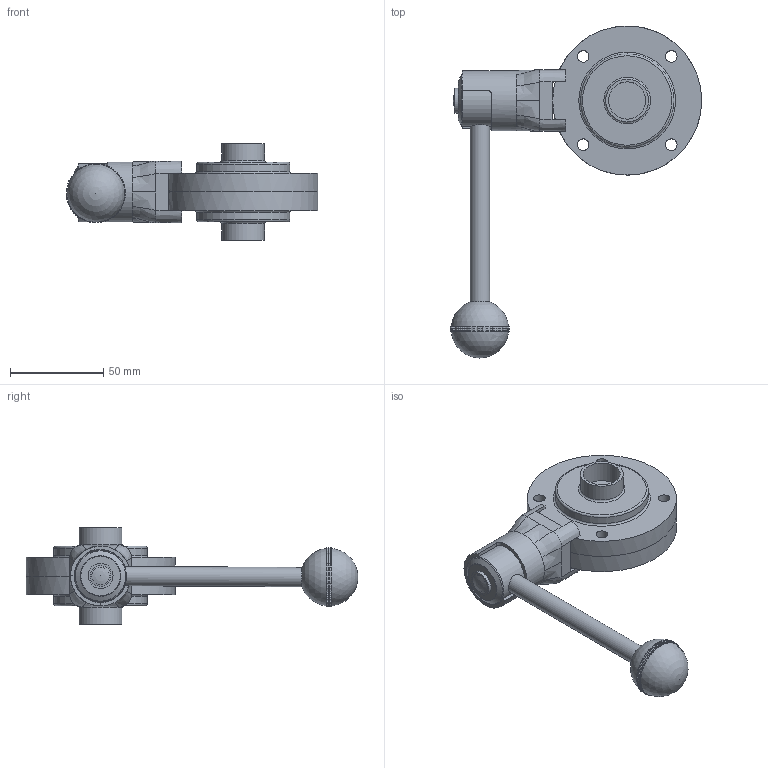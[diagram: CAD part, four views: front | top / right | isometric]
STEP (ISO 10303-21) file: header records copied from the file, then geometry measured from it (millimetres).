
FILE_DESCRIPTION(/* description */ ('VVF VALV.FARF.DN20 (23X1.5) SS HNBR 316 LEVA INOX 3POS.'),/* implementation_level */ '2;1');
FILE_NAME(/* name */ 'C:\_DED_PWS\MARZ-M\DB\B\EBA\BEBACG020BHBV-00^SAGOMA.step',/* time_stamp */ '2023-06-20T13:02:59+02:00',/* author */ (''),/* organization */ (''),/* preprocessor_version */ 'ST-DEVELOPER v18.1',/* originating_system */ 'Autodesk Inventor 2022',/* authorisation */ '');
FILE_SCHEMA (('CONFIG_CONTROL_DESIGN','AP203_CONFIGURATION_CONTROLLED_3D_DESIGN_OF_MECHANICAL_PARTS_AND_ASSEMBLIES_MIM_LF { 1 0 10303 203 3 1 4 }'));
Length unit declared in the file: millimetre
Products named in the file (3): BEBACG020BHBV; TNU430065AAA; TWD006020BBA
Assembly tree (3 placements, depth 2):
  BEBACG020BHBV
    TNU430065AAA
    TWD006020BBA  x2
Bounding box: 134.94 x 178.18 x 52 mm (x, y, z)
Volume: 180773.7 mm3; surface area: 58204.4 mm2
Topology: 5 solids, 6 shells, 543 faces, 1319 edges, 869 vertices
Faces by surface type: plane 355, torus 85, cylinder 54, bspline 38, cone 7, sphere 4
Full cylindrical faces by diameter (mm): 6 x2, 6.2 x8, 6.5 x3, 9 x3, 9.3 x1, 10 x3, 10.4 x1, 10.5 x1, 11 x1, 11.1 x1, 11.4 x2, 13.4 x1, 15 x1, 15.2 x1, 20 x2, 23 x2, 27.8 x1, 28.4 x1, 32.2 x1, 50 x2, 80 x2
Entity records: 26282 total; most frequent: CARTESIAN_POINT 13490, DIRECTION 2564, ORIENTED_EDGE 2540, EDGE_CURVE 1270, AXIS2_PLACEMENT_3D 1067, VERTEX_POINT 839, EDGE_LOOP 625, CIRCLE 576
